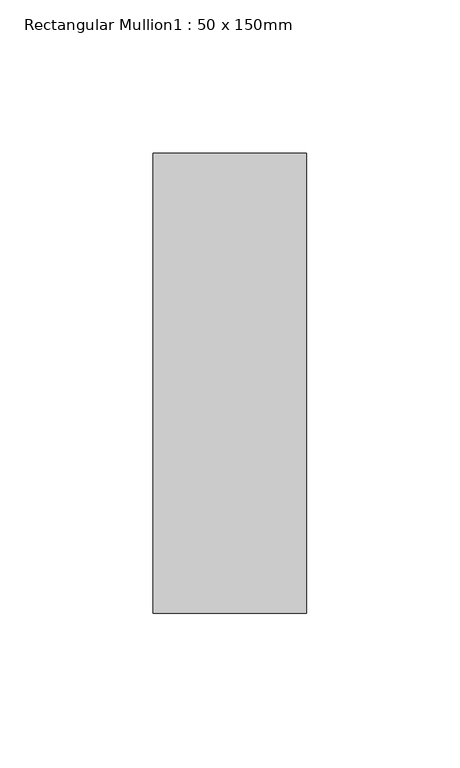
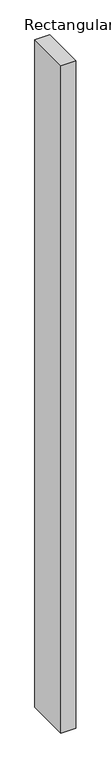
"""IFC4 building model written with IfcOpenShell, lengths in millimetres: member geometry, Rectangular Mullion1 : 50 x 150mm."""

from ifc_helpers import new_model, si_unit, frame, origin, place, context, project, spatial, polyline, outline, extrude, source, transform, mapped, element, save


def rectangular_mullion1_50_x_150mm_8b0a0560(model_context):
    return source(origin(), model_context, "Body", "SweptSolid", [
        extrude(outline(polyline([(0.0, 75.0), (0.0, -75.0), (-50.0, -75.0), (-50.0, 75.0), (0.0, 75.0)])), frame((0.0, 0.0, -2350.0), z_axis=(0.0, 0.0, 1.0), x_axis=(1.0, 0.0, 0.0)), (0.0, 0.0, 1.0), 2350.0),
    ])


if __name__ == "__main__":
    model = new_model("IFC4")
    model_context = context("Model", 3, world=origin())
    ifc_project = project(units=[si_unit("LENGTHUNIT", "METRE", prefix="MILLI")], contexts=[model_context])
    site = spatial("IfcSite", under=ifc_project)
    building = spatial("IfcBuilding", under=site)
    placement = place(None, origin())
    rectangular_mullion1_50_x_150mm_shape = rectangular_mullion1_50_x_150mm_8b0a0560(model_context)
    element("IfcMember", 1, ObjectType="Rectangular Mullion1 : 50 x 150mm", at=placement, inside=building, context=model_context, shape_type="MappedRepresentation", body=[
        mapped(rectangular_mullion1_50_x_150mm_shape, transform((0.0, 0.0, 0.0), x_axis=(1.0, 0.0, 0.0), y_axis=(0.0, 1.0, 0.0), z_axis=(0.0, 0.0, 1.0))),
    ])
    save(model, "model.ifc")
